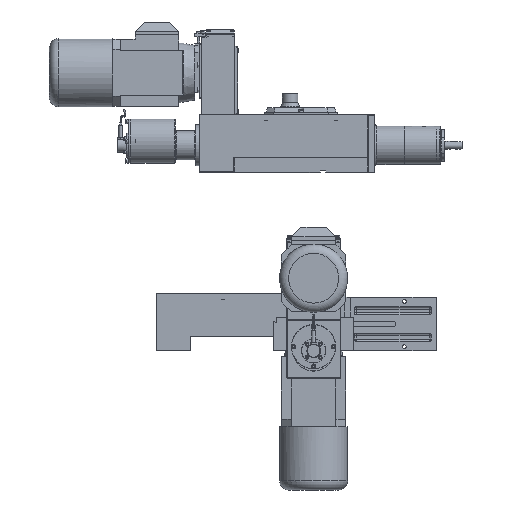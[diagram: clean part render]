
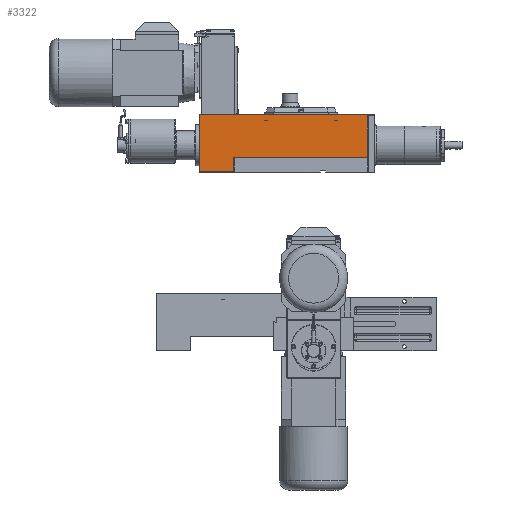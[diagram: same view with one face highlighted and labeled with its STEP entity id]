
A CAD part, front view. The second image highlights one B-rep face of the part: STEP entity #3322.
In plain terms, the highlighted planar face has unit normal (0, -1, 0).
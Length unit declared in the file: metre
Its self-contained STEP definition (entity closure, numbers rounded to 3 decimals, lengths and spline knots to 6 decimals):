
#3322 = ADVANCED_FACE( '', ( #5260 ), #5261, .T. );
#5260 = FACE_OUTER_BOUND( '', #8069, .T. );
#5261 = PLANE( '', #8070 );
#8069 = EDGE_LOOP( '', ( #14111, #14112, #14113, #14114, #14115, #14116 ) );
#8070 = AXIS2_PLACEMENT_3D( '', #14117, #14118, #14119 );
#14111 = ORIENTED_EDGE( '', *, *, #18178, .F. );
#14112 = ORIENTED_EDGE( '', *, *, #18175, .F. );
#14113 = ORIENTED_EDGE( '', *, *, #18172, .F. );
#14114 = ORIENTED_EDGE( '', *, *, #18179, .F. );
#14115 = ORIENTED_EDGE( '', *, *, #18180, .T. );
#14116 = ORIENTED_EDGE( '', *, *, #18181, .T. );
#14117 = CARTESIAN_POINT( '', ( 0.025, -0.019444, 0. ) );
#14118 = DIRECTION( '', ( 0., -1., 0. ) );
#14119 = DIRECTION( '', ( 0., 0., -1. ) );
#18172 = EDGE_CURVE( '', #21100, #21110, #21113, .T. );
#18175 = EDGE_CURVE( '', #21110, #21117, #21118, .T. );
#18178 = EDGE_CURVE( '', #21117, #21122, #21123, .T. );
#18179 = EDGE_CURVE( '', #21124, #21100, #21125, .T. );
#18180 = EDGE_CURVE( '', #21124, #21126, #21127, .T. );
#18181 = EDGE_CURVE( '', #21126, #21122, #21128, .T. );
#21100 = VERTEX_POINT( '', #26076 );
#21110 = VERTEX_POINT( '', #26089 );
#21113 = LINE( '', #26094, #26095 );
#21117 = VERTEX_POINT( '', #26101 );
#21118 = LINE( '', #26102, #26103 );
#21122 = VERTEX_POINT( '', #26109 );
#21123 = LINE( '', #26110, #26111 );
#21124 = VERTEX_POINT( '', #26112 );
#21125 = LINE( '', #26113, #26114 );
#21126 = VERTEX_POINT( '', #26115 );
#21127 = LINE( '', #26116, #26117 );
#21128 = LINE( '', #26118, #26119 );
#26076 = CARTESIAN_POINT( '', ( -0.3465, -0.019444, 0.0005 ) );
#26089 = CARTESIAN_POINT( '', ( -0.3465, -0.019444, 0.1265 ) );
#26094 = CARTESIAN_POINT( '', ( -0.3465, -0.019444, 0. ) );
#26095 = VECTOR( '', #30982, 1. );
#26101 = CARTESIAN_POINT( '', ( 0.0245, -0.019444, 0.1265 ) );
#26102 = CARTESIAN_POINT( '', ( -0.068, -0.019444, 0.1265 ) );
#26103 = VECTOR( '', #30985, 1. );
#26109 = CARTESIAN_POINT( '', ( 0.0245, -0.019444, 0.032 ) );
#26110 = CARTESIAN_POINT( '', ( 0.0245, -0.019444, 0. ) );
#26111 = VECTOR( '', #30988, 1. );
#26112 = CARTESIAN_POINT( '', ( -0.271, -0.019444, 0.0005 ) );
#26113 = CARTESIAN_POINT( '', ( -0.068, -0.019444, 0.0005 ) );
#26114 = VECTOR( '', #30989, 1. );
#26115 = CARTESIAN_POINT( '', ( -0.271, -0.019444, 0.032 ) );
#26116 = CARTESIAN_POINT( '', ( -0.271, -0.019444, 0. ) );
#26117 = VECTOR( '', #30990, 1. );
#26118 = CARTESIAN_POINT( '', ( -0.049, -0.019444, 0.032 ) );
#26119 = VECTOR( '', #30991, 1. );
#30982 = DIRECTION( '', ( 0., 0., 1. ) );
#30985 = DIRECTION( '', ( 1., 0., 0. ) );
#30988 = DIRECTION( '', ( 0., 0., -1. ) );
#30989 = DIRECTION( '', ( -1., 0., 0. ) );
#30990 = DIRECTION( '', ( 0., 0., 1. ) );
#30991 = DIRECTION( '', ( 1., 0., 0. ) );
